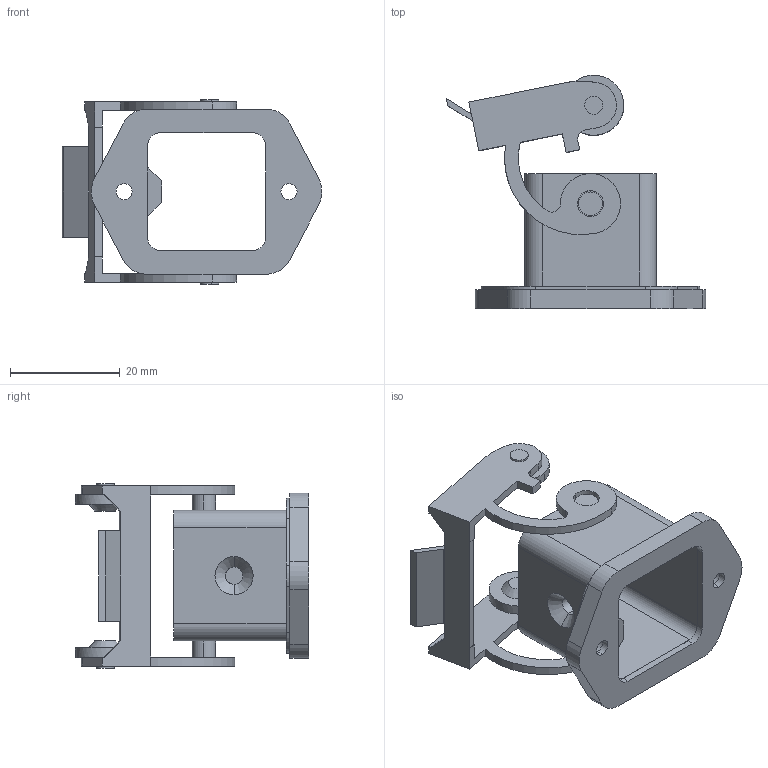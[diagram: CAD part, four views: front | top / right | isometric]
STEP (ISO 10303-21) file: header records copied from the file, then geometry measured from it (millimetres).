
FILE_DESCRIPTION (( 'STEP AP214' ), '1' );
FILE_NAME ('CKAX-03I.STEP', '2006-07-06T15:30:24', ( 'Mencom User' ), ( 'Mencom Corporation' ), 'SwSTEP 2.0', 'SolidWorks 2006104', '' );
FILE_SCHEMA (( 'AUTOMOTIVE_DESIGN' ));
Length unit declared in the file: inch
Products named in the file (1): CKAX-03I
Bounding box: 47.2 x 42.45 x 33.53 mm (x, y, z)
Surface area: 9330.3 mm2 (no closed solid volume)
Topology: 0 solids, 3 shells, 151 faces, 424 edges, 283 vertices
Faces by surface type: plane 74, cylinder 69, cone 8
Entity records: 6918 total; most frequent: DIRECTION 891, CARTESIAN_POINT 875, ORIENTED_EDGE 816, EDGE_CURVE 424, AXIS2_PLACEMENT_3D 317, VERTEX_POINT 283, VECTOR 257, LINE 257
